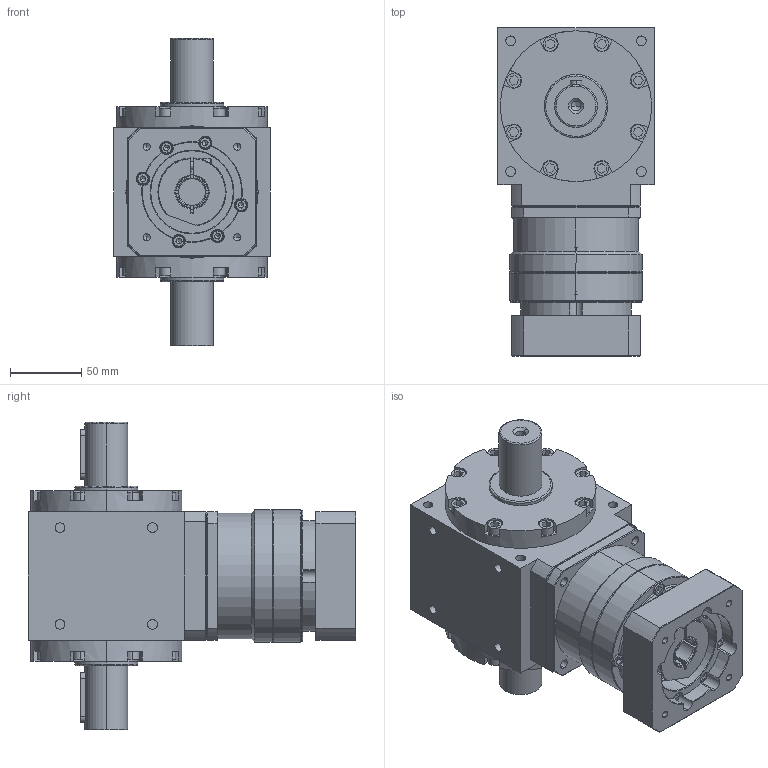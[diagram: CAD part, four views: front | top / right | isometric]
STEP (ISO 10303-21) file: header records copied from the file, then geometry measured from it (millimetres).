
FILE_DESCRIPTION (( 'STEP AP203' ), '1' );
FILE_NAME ('AAW110AS-L1-2P 19-70-90-M6.STEP', '2024-12-24T03:35:19', ( '' ), ( '' ), 'SwSTEP 2.0', 'SolidWorks 2021', '' );
FILE_SCHEMA (( 'CONFIG_CONTROL_DESIGN' ));
Length unit declared in the file: millimetre
Products named in the file (3): AAW110AS-2P; AAW110AS-L1-2P 19-70-90-M6; VRB-090-L1-S2-P1 19-70-90-M6
Assembly tree (2 placements, depth 2):
  AAW110AS-L1-2P 19-70-90-M6
    AAW110AS-2P
    VRB-090-L1-S2-P1 19-70-90-M6
Bounding box: 110 x 230.5 x 216 mm (x, y, z)
Volume: 2108111.2 mm3; surface area: 213217.8 mm2
Topology: 28 solids, 28 shells, 1085 faces, 2641 edges, 1662 vertices
Faces by surface type: plane 530, cylinder 366, cone 157, torus 26, bspline 6
Entity records: 33026 total; most frequent: CARTESIAN_POINT 6956, DIRECTION 5643, ORIENTED_EDGE 5170, EDGE_CURVE 2585, AXIS2_PLACEMENT_3D 2143, VERTEX_POINT 1662, VECTOR 1357, LINE 1357
